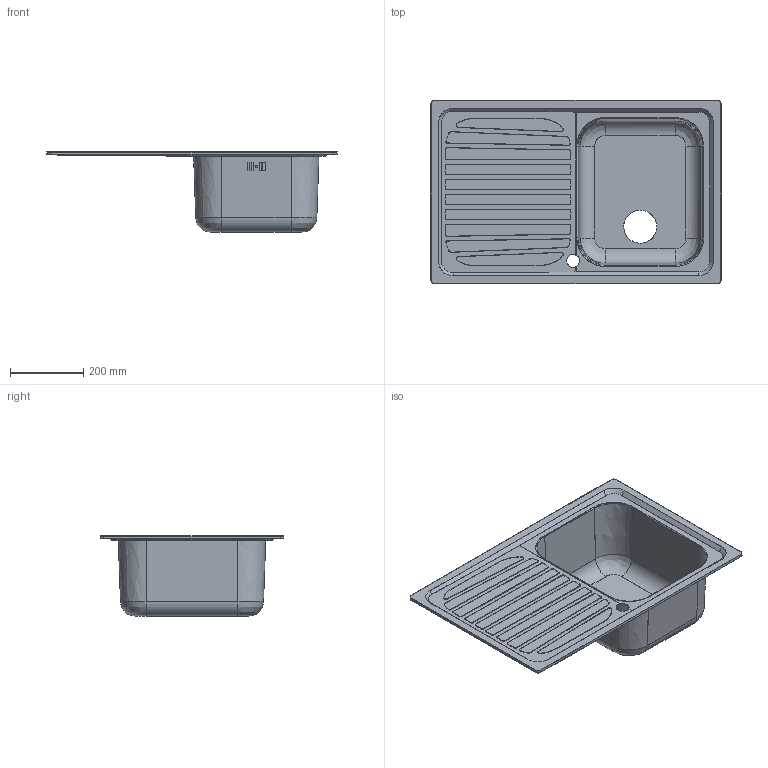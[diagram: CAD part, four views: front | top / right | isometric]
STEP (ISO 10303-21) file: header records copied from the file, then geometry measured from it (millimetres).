
FILE_DESCRIPTION(('CATIA V5 STEP Exchange'),'2;1');
FILE_NAME('\\sr02\Apell\Disegni\DISEGNI\LAVELLI\ALBA\Parti\SP791D-2\SP791D-2.stp','2018-04-05T09:07:10+00:00',('none'),('none'),'CATIA Version 5-6 Release 2014','CATIA V5 STEP AP203','none');
FILE_SCHEMA(('CONFIG_CONTROL_DESIGN'));
Length unit declared in the file: millimetre
Products named in the file (1): SP791D-2
Bounding box: 790 x 500 x 218 mm (x, y, z)
Volume: 401409.3 mm3; surface area: 1341568.8 mm2
Topology: 2 solids, 2 shells, 319 faces, 834 edges, 540 vertices
Faces by surface type: plane 141, cylinder 122, bspline 28, extrusion 20, cone 8
Entity records: 13926 total; most frequent: CARTESIAN_POINT 6685, ORIENTED_EDGE 1668, DIRECTION 1108, EDGE_CURVE 834, VERTEX_POINT 540, VECTOR 486, LINE 466, AXIS2_PLACEMENT_3D 399
